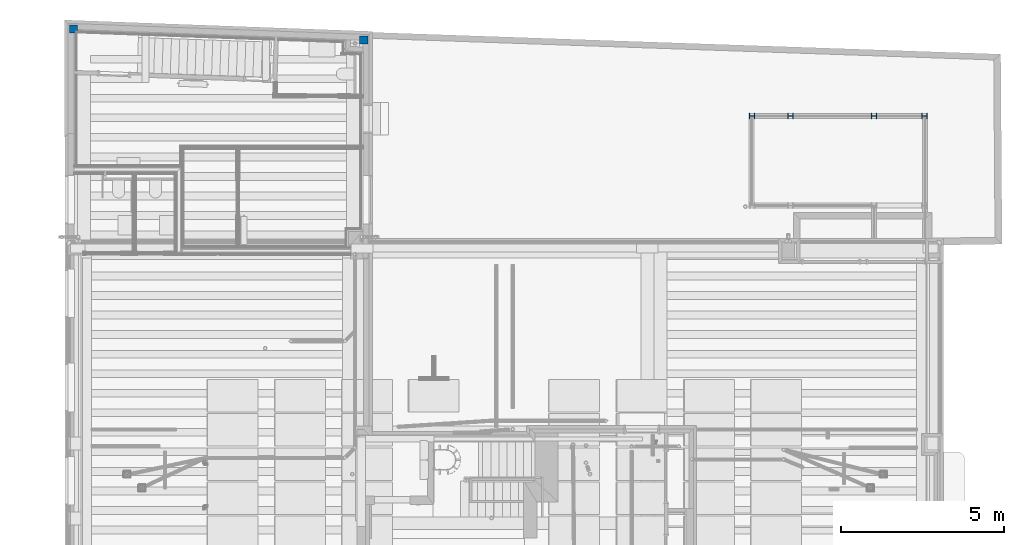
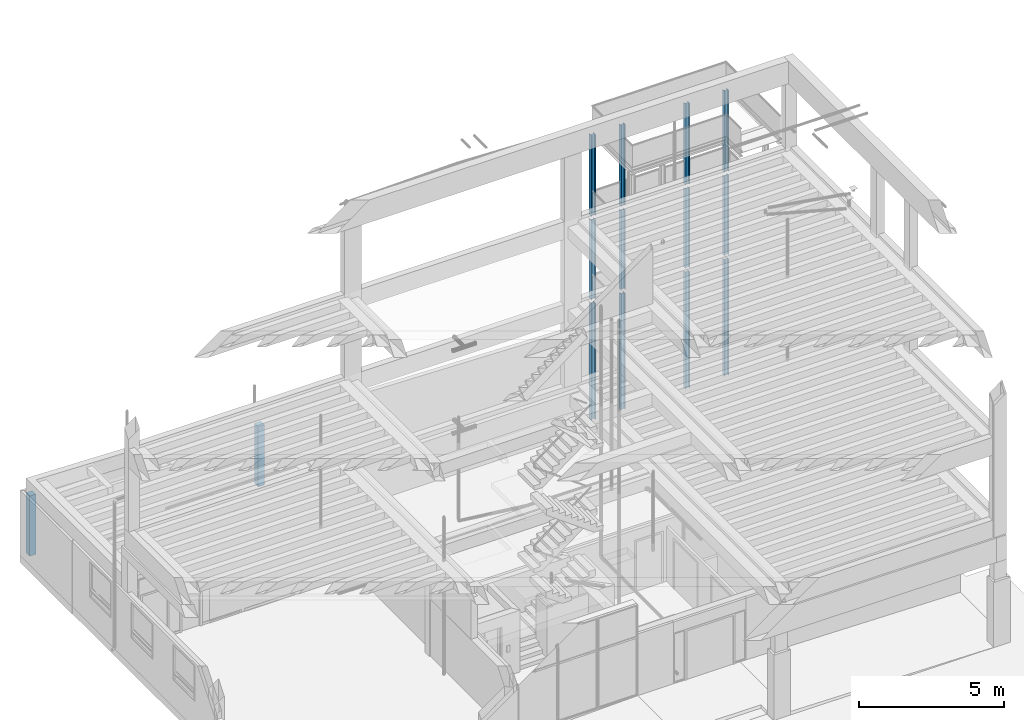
# One storey, part 3 of 106: 14 columns.
"""IFC2X3 building model written with IfcOpenShell, lengths in metres."""

from ifc_helpers import new_model, entity, si_unit, converted_unit, derived_unit, money_unit, direction, frame, frame_2d, origin_with_axes, place, context, subcontext, project, spatial, polyline, rectangle, outline, extrude, material, type_object, element, save


model = new_model("IFC2X3")

# Units and contexts
model_context = context("Model", 3, precision=1e-05, world=origin_with_axes(), true_north=direction((0.0, 1.0)))
body_context = subcontext(model_context, "Body", "Model", "MODEL_VIEW", scale=1.0)
ifc_project = project(units=[si_unit("LENGTHUNIT", "METRE"), si_unit("AREAUNIT", "SQUARE_METRE"), si_unit("VOLUMEUNIT", "CUBIC_METRE"), si_unit("ABSORBEDDOSEUNIT", "GRAY"), si_unit("AMOUNTOFSUBSTANCEUNIT", "MOLE"), si_unit("DOSEEQUIVALENTUNIT", "SIEVERT"), si_unit("ELECTRICCAPACITANCEUNIT", "FARAD"), si_unit("ELECTRICCHARGEUNIT", "COULOMB"), si_unit("ELECTRICCONDUCTANCEUNIT", "SIEMENS"), si_unit("ELECTRICCURRENTUNIT", "AMPERE"), si_unit("ELECTRICRESISTANCEUNIT", "OHM"), si_unit("ELECTRICVOLTAGEUNIT", "VOLT"), si_unit("ENERGYUNIT", "JOULE"), si_unit("FORCEUNIT", "NEWTON"), si_unit("FREQUENCYUNIT", "HERTZ"), si_unit("ILLUMINANCEUNIT", "LUX"), si_unit("INDUCTANCEUNIT", "HENRY"), si_unit("LUMINOUSFLUXUNIT", "LUMEN"), si_unit("LUMINOUSINTENSITYUNIT", "CANDELA"), si_unit("MAGNETICFLUXDENSITYUNIT", "TESLA"), si_unit("MAGNETICFLUXUNIT", "WEBER"), si_unit("MASSUNIT", "GRAM"), converted_unit("PLANEANGLEUNIT", "degree", entity("IfcReal", 0.0174532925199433), si_unit("PLANEANGLEUNIT", "RADIAN"), dimensions=[0, 0, 0, 0, 0, 0, 0]), si_unit("POWERUNIT", "WATT"), si_unit("PRESSUREUNIT", "PASCAL"), si_unit("RADIOACTIVITYUNIT", "BECQUEREL"), si_unit("SOLIDANGLEUNIT", "STERADIAN"), si_unit("THERMODYNAMICTEMPERATUREUNIT", "KELVIN"), si_unit("TIMEUNIT", "SECOND"), derived_unit("ACCELERATIONUNIT", [(si_unit("LENGTHUNIT", "METRE"), 1), (si_unit("TIMEUNIT", "SECOND"), -2)]), derived_unit("ANGULARVELOCITYUNIT", [(converted_unit("PLANEANGLEUNIT", "degree", entity("IfcReal", 0.0174532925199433), si_unit("PLANEANGLEUNIT", "RADIAN"), dimensions=[0, 0, 0, 0, 0, 0, 0]), 1), (si_unit("TIMEUNIT", "SECOND"), -1)]), derived_unit("CURVATUREUNIT", [(converted_unit("PLANEANGLEUNIT", "degree", entity("IfcReal", 0.0174532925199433), si_unit("PLANEANGLEUNIT", "RADIAN"), dimensions=[0, 0, 0, 0, 0, 0, 0]), 1), (si_unit("LENGTHUNIT", "METRE"), -1)]), derived_unit("DYNAMICVISCOSITYUNIT", [(si_unit("PRESSUREUNIT", "PASCAL"), 1), (si_unit("TIMEUNIT", "SECOND"), 1)]), derived_unit("HEATFLUXDENSITYUNIT", [(si_unit("POWERUNIT", "WATT"), 1), (si_unit("LENGTHUNIT", "METRE"), -2)]), derived_unit("HEATINGVALUEUNIT", [(si_unit("ENERGYUNIT", "JOULE"), 1), (si_unit("MASSUNIT", "GRAM"), -1)]), derived_unit("INTEGERCOUNTRATEUNIT", [(si_unit("TIMEUNIT", "SECOND"), -1)]), derived_unit("IONCONCENTRATIONUNIT", [(si_unit("MASSUNIT", "GRAM"), 1), (si_unit("VOLUMEUNIT", "CUBIC_METRE"), -1)]), derived_unit("ISOTHERMALMOISTURECAPACITYUNIT", [(si_unit("VOLUMEUNIT", "CUBIC_METRE"), 1), (si_unit("MASSUNIT", "GRAM"), -1)]), derived_unit("KINEMATICVISCOSITYUNIT", [(si_unit("AREAUNIT", "SQUARE_METRE"), 1), (si_unit("TIMEUNIT", "SECOND"), -1)]), derived_unit("LINEARFORCEUNIT", [(si_unit("FORCEUNIT", "NEWTON"), 1), (si_unit("LENGTHUNIT", "METRE"), -1)]), derived_unit("LINEARMOMENTUNIT", [(si_unit("FORCEUNIT", "NEWTON"), 1), (si_unit("LENGTHUNIT", "METRE"), -1)]), derived_unit("LINEARSTIFFNESSUNIT", [(si_unit("FORCEUNIT", "NEWTON"), 1), (si_unit("LENGTHUNIT", "METRE"), -1)]), derived_unit("LINEARVELOCITYUNIT", [(si_unit("LENGTHUNIT", "METRE"), 1), (si_unit("TIMEUNIT", "SECOND"), -1)]), derived_unit("LUMINOUSINTENSITYDISTRIBUTIONUNIT", [(si_unit("LUMINOUSINTENSITYUNIT", "CANDELA"), 1), (si_unit("LUMINOUSFLUXUNIT", "LUMEN"), -1)]), derived_unit("MASSDENSITYUNIT", [(si_unit("MASSUNIT", "GRAM"), 1), (si_unit("VOLUMEUNIT", "CUBIC_METRE"), -1)]), derived_unit("MASSFLOWRATEUNIT", [(si_unit("MASSUNIT", "GRAM"), 1), (si_unit("TIMEUNIT", "SECOND"), -1)]), derived_unit("MASSPERLENGTHUNIT", [(si_unit("MASSUNIT", "GRAM"), 1), (si_unit("LENGTHUNIT", "METRE"), -1)]), derived_unit("MODULUSOFELASTICITYUNIT", [(si_unit("FORCEUNIT", "NEWTON"), 1), (si_unit("AREAUNIT", "SQUARE_METRE"), -1)]), derived_unit("MODULUSOFLINEARSUBGRADEREACTIONUNIT", [(si_unit("FORCEUNIT", "NEWTON"), 1), (si_unit("LENGTHUNIT", "METRE"), -2)]), derived_unit("MODULUSOFROTATIONALSUBGRADEREACTIONUNIT", [(si_unit("FORCEUNIT", "NEWTON"), 1), (si_unit("LENGTHUNIT", "METRE"), 1)]), derived_unit("MODULUSOFSUBGRADEREACTIONUNIT", [(si_unit("FORCEUNIT", "NEWTON"), 1), (si_unit("VOLUMEUNIT", "CUBIC_METRE"), -1)]), derived_unit("MOISTUREDIFFUSIVITYUNIT", [(si_unit("VOLUMEUNIT", "CUBIC_METRE"), 1), (si_unit("TIMEUNIT", "SECOND"), -1)]), derived_unit("MOLECULARWEIGHTUNIT", [(si_unit("MASSUNIT", "GRAM"), 1), (si_unit("AMOUNTOFSUBSTANCEUNIT", "MOLE"), -1)]), derived_unit("PLANARFORCEUNIT", [(si_unit("FORCEUNIT", "NEWTON"), 1), (si_unit("LENGTHUNIT", "METRE"), -2)]), derived_unit("ROTATIONALFREQUENCYUNIT", [(si_unit("TIMEUNIT", "SECOND"), -1)]), derived_unit("ROTATIONALMASSUNIT", [(si_unit("MASSUNIT", "GRAM"), 1), (si_unit("LENGTHUNIT", "METRE"), 2)]), derived_unit("ROTATIONALSTIFFNESSUNIT", [(si_unit("FORCEUNIT", "NEWTON"), 1), (si_unit("LENGTHUNIT", "METRE"), 1), (converted_unit("PLANEANGLEUNIT", "degree", entity("IfcReal", 0.0174532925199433), si_unit("PLANEANGLEUNIT", "RADIAN"), dimensions=[0, 0, 0, 0, 0, 0, 0]), -1)]), derived_unit("SECTIONAREAINTEGRALUNIT", [(si_unit("LENGTHUNIT", "METRE"), 5)]), derived_unit("SECTIONMODULUSUNIT", [(si_unit("LENGTHUNIT", "METRE"), 3)]), derived_unit("SHEARMODULUSUNIT", [(si_unit("FORCEUNIT", "NEWTON"), 1), (si_unit("AREAUNIT", "SQUARE_METRE"), -1)]), derived_unit("SOUNDPOWERUNIT", [(si_unit("ENERGYUNIT", "JOULE"), 1), (si_unit("TIMEUNIT", "SECOND"), -1)]), derived_unit("SPECIFICHEATCAPACITYUNIT", [(si_unit("FORCEUNIT", "NEWTON"), 1), (si_unit("MASSUNIT", "GRAM"), -1), (si_unit("THERMODYNAMICTEMPERATUREUNIT", "KELVIN"), -1)]), derived_unit("TEMPERATUREGRADIENTUNIT", [(si_unit("THERMODYNAMICTEMPERATUREUNIT", "KELVIN"), 1), (si_unit("LENGTHUNIT", "METRE"), -1)]), derived_unit("THERMALADMITTANCEUNIT", [(si_unit("POWERUNIT", "WATT"), 1), (si_unit("AREAUNIT", "SQUARE_METRE"), -1), (si_unit("THERMODYNAMICTEMPERATUREUNIT", "KELVIN"), -1)]), derived_unit("THERMALCONDUCTANCEUNIT", [(si_unit("POWERUNIT", "WATT"), 1), (si_unit("LENGTHUNIT", "METRE"), -1), (si_unit("THERMODYNAMICTEMPERATUREUNIT", "KELVIN"), -1)]), derived_unit("THERMALEXPANSIONCOEFFICIENTUNIT", [(si_unit("THERMODYNAMICTEMPERATUREUNIT", "KELVIN"), -1)]), derived_unit("THERMALRESISTANCEUNIT", [(si_unit("AREAUNIT", "SQUARE_METRE"), 1), (si_unit("POWERUNIT", "WATT"), -1)]), derived_unit("THERMALTRANSMITTANCEUNIT", [(si_unit("POWERUNIT", "WATT"), 1), (si_unit("AREAUNIT", "SQUARE_METRE"), -1), (si_unit("THERMODYNAMICTEMPERATUREUNIT", "KELVIN"), -1)]), derived_unit("TORQUEUNIT", [(si_unit("FORCEUNIT", "NEWTON"), 1), (si_unit("LENGTHUNIT", "METRE"), 1)]), derived_unit("VAPORPERMEABILITYUNIT", [(si_unit("MASSUNIT", "GRAM"), 1), (si_unit("TIMEUNIT", "SECOND"), -1)]), derived_unit("VOLUMETRICFLOWRATEUNIT", [(si_unit("VOLUMEUNIT", "CUBIC_METRE"), 1), (si_unit("TIMEUNIT", "SECOND"), -1)]), derived_unit("WARPINGCONSTANTUNIT", [(si_unit("LENGTHUNIT", "METRE"), 6)]), derived_unit("WARPINGMOMENTUNIT", [(si_unit("FORCEUNIT", "NEWTON"), 1), (si_unit("LENGTHUNIT", "METRE"), 2)]), money_unit("GBP")], contexts=[model_context])

# Site, building, storey
site_placement = place(None, origin_with_axes())
site = spatial("IfcSite", under=ifc_project, at=site_placement, Name="Site", CompositionType="ELEMENT")
building_placement = place(site_placement, origin_with_axes())
building = spatial("IfcBuilding", under=site, at=building_placement, Name="Building01", CompositionType="ELEMENT")
storey_placement = place(building_placement, origin_with_axes())
storey = spatial("IfcBuildingStorey", under=building, at=storey_placement, Name="GF", CompositionType="ELEMENT", Elevation=0.0)

# Columns
ifc_material_1 = material(Name="A_BSUK_Columns_Steel")
column_type_1 = type_object("IfcColumnType", Name="A-Columns-Steel", PredefinedType="COLUMN")
for number, where, z_axis, x_axis, name in (
    (1, (26.490035, 18.584781, 0.0), (0.0, 0.0, 1.0), (0.0, 1.0, 0.0), "column"),
    (2, (24.940035, 18.584781, 0.0), (0.0, 0.0, 1.0), (0.0, 1.0, 0.0), "column"),
    (3, (22.370035, 18.584781, 0.0), (0.0, 0.0, 1.0), (0.0, 1.0, 0.0), "column"),
    (4, (21.181634, 18.584781, 0.0), (0.0, 0.0, 1.0), (0.0, 1.0, 0.0), "column"),
):
    element("IfcColumn", number, at=place(storey_placement, frame(where, z_axis=z_axis, x_axis=x_axis)), inside=storey, type_object=column_type_1, material=ifc_material_1, Name=name, ObjectType="A-Columns-Steel", context=body_context, shape_type="SweptSolid", body=[
        extrude(outline(polyline([(0.1574, 0.0), (0.1574, 0.0157), (0.0842, 0.0157), (0.0842, 0.1545), (0.1574, 0.1545), (0.1574, 0.1702), (0.0, 0.1702), (0.0, 0.1545), (0.0732, 0.1545), (0.0732, 0.0157), (0.0, 0.0157), (0.0, 0.0), (0.1574, 0.0)])), origin_with_axes(), (0.0, 0.0, 1.0), 4.894),
    ])
for number, where, z_axis, x_axis, name in (
    (5, (26.490035, 18.584781, 5.064467), (0.0, 0.0, 1.0), (0.0, 1.0, 0.0), "column"),
    (6, (24.940035, 18.584781, 5.064467), (0.0, 0.0, 1.0), (0.0, 1.0, 0.0), "column"),
    (7, (22.370035, 18.584781, 5.064467), (0.0, 0.0, 1.0), (0.0, 1.0, 0.0), "column"),
    (8, (21.181634, 18.584781, 5.064467), (0.0, 0.0, 1.0), (0.0, 1.0, 0.0), "column"),
):
    element("IfcColumn", number, at=place(storey_placement, frame(where, z_axis=z_axis, x_axis=x_axis)), inside=storey, type_object=column_type_1, material=ifc_material_1, Name=name, ObjectType="A-Columns-Steel", context=body_context, shape_type="SweptSolid", body=[
        extrude(outline(polyline([(0.1574, 0.0), (0.1574, 0.0157), (0.0842, 0.0157), (0.0842, 0.1545), (0.1574, 0.1545), (0.1574, 0.1702), (0.0, 0.1702), (0.0, 0.1545), (0.0732, 0.1545), (0.0732, 0.0157), (0.0, 0.0157), (0.0, 0.0), (0.1574, 0.0)])), origin_with_axes(), (0.0, 0.0, 1.0), 3.353),
    ])
for number, where, z_axis, x_axis, name in (
    (9, (21.181634, 18.584781, 8.587442), (0.0, 0.0, 1.0), (0.0, 1.0, 0.0), "column"),
    (10, (22.370035, 18.584781, 8.587442), (0.0, 0.0, 1.0), (0.0, 1.0, 0.0), "column"),
    (11, (24.940035, 18.584781, 8.587442), (0.0, 0.0, 1.0), (0.0, 1.0, 0.0), "column"),
    (12, (26.490035, 18.584781, 8.587442), (0.0, 0.0, 1.0), (0.0, 1.0, 0.0), "column"),
):
    element("IfcColumn", number, at=place(storey_placement, frame(where, z_axis=z_axis, x_axis=x_axis)), inside=storey, type_object=column_type_1, material=ifc_material_1, Name=name, ObjectType="A-Columns-Steel", context=body_context, shape_type="SweptSolid", body=[
        extrude(outline(polyline([(0.1574, 0.0), (0.1574, 0.0157), (0.0842, 0.0157), (0.0842, 0.1545), (0.1574, 0.1545), (0.1574, 0.1702), (0.0, 0.1702), (0.0, 0.1545), (0.0732, 0.1545), (0.0732, 0.0157), (0.0, 0.0157), (0.0, 0.0), (0.1574, 0.0)])), origin_with_axes(), (0.0, 0.0, 1.0), 3.413),
    ])
ifc_material_2 = material(Name="A_BSUK_Columns_ReinforcedConcrete")
column_type_2 = type_object("IfcColumnType", Name="A-Columns-Concrete", PredefinedType="COLUMN")
for number, where, z_axis, x_axis, name in (
    (13, (0.140679, 21.208056, 0.0), (0.0, 0.0, 1.0), (1.0, 0.0, 0.0), "A-Columns-Concrete"),
    (14, (9.053038, 20.877455, 0.0), (0.0, 0.0, 1.0), (1.0, 0.0, 0.0), "A-Columns-Concrete"),
):
    element("IfcColumn", number, at=place(storey_placement, frame(where, z_axis=z_axis, x_axis=x_axis)), inside=storey, type_object=column_type_2, material=ifc_material_2, Name=name, ObjectType="A-Columns-Concrete", context=body_context, shape_type="SweptSolid", body=[
        extrude(rectangle(XDim=0.25, YDim=0.25, at=frame_2d((0.125, 0.125), x_axis=(0.0, 1.0))), origin_with_axes(), (0.0, 0.0, 1.0), 2.535),
    ])

save(model, "model.ifc")
